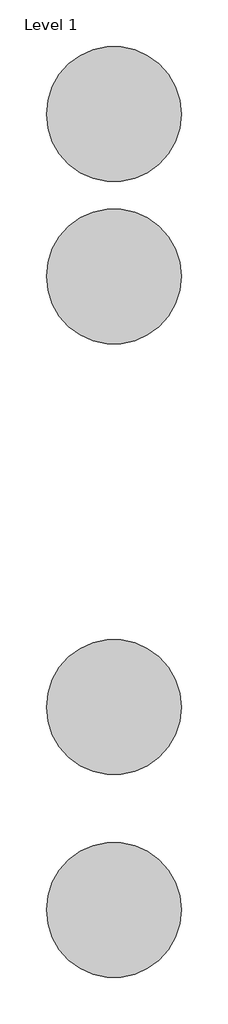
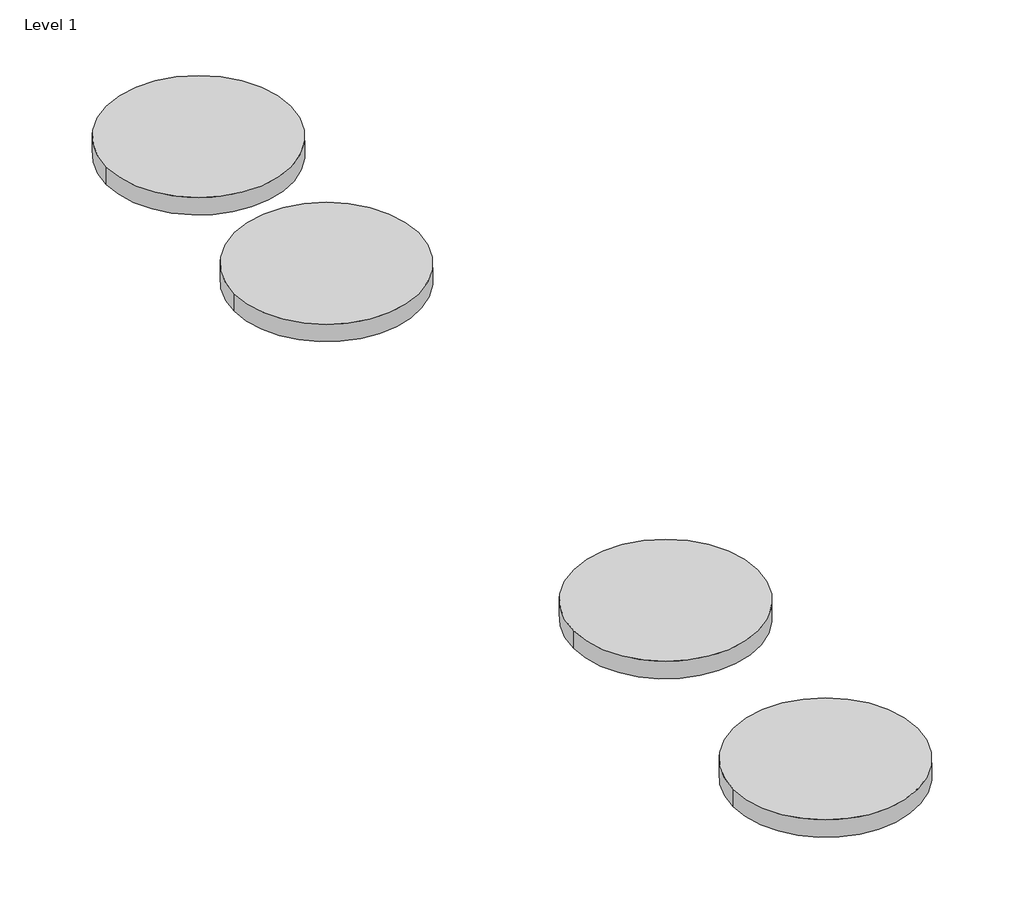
# One storey, incomplete: 4 proxies.
"""IFC4 building model written with IfcOpenShell, lengths in millimetres."""

import ifcopenshell
import ifcopenshell.guid

model = None  # the IFC model being written
_history = None  # IfcOwnerHistory: only IFC2X3 demands one
_inside = {}  # id of a spatial element -> (the spatial element, [elements in it])
_under = {}  # id of a project, library or spatial element -> (it, [spatial elements below it])
_declared = {}  # id of a project -> (the project, [libraries it declares])
_typed = {}  # id of a type object -> (the type object, [elements of that type])
_made_of = {}  # id of a material, layer set ... -> (it, [elements and type objects made of it])


def new_model(schema):
    """Start an empty IFC model of exactly this schema.

    Asked for "IFC4X3", IfcOpenShell would pick the latest addendum, in which some entities
    have other attributes; the version numbers below select the first issue.
    IFC2X3 requires an IfcOwnerHistory on every rooted entity: one is made here for all.
    """
    global model, _history
    if schema == "IFC4X3":
        model = ifcopenshell.file(schema_version=(4, 3, 0, 0))
    else:
        model = ifcopenshell.file(schema=schema)
    _inside.clear()
    _under.clear()
    _declared.clear()
    _typed.clear()
    _made_of.clear()
    _history = None
    if model.schema == "IFC2X3":
        org = make("IfcOrganization", Name="unknown")
        user = make(
            "IfcPersonAndOrganization",
            ThePerson=make("IfcPerson", FamilyName="unknown"),
            TheOrganization=org,
        )
        app = make(
            "IfcApplication",
            ApplicationDeveloper=org,
            Version="unknown",
            ApplicationFullName="unknown",
            ApplicationIdentifier="unknown",
        )
        _history = make(
            "IfcOwnerHistory",
            OwningUser=user,
            OwningApplication=app,
            ChangeAction="ADDED",
            CreationDate=0,
        )
    return model


def make(cls, **values):
    """One entity of the class cls with the attributes given. An attribute that is None is left unset."""
    return model.create_entity(
        cls, **{name: value for name, value in values.items() if value is not None}
    )


def rooted(cls, **values):
    """An entity with a GlobalId (a new one), such as an element, a storey or a relation."""
    return make(cls, GlobalId=ifcopenshell.guid.new(), OwnerHistory=_history, **values)


def si_unit(unit_type, name, prefix=None):
    """IfcSIUnit, for example si_unit("LENGTHUNIT", "METRE", prefix="MILLI")."""
    return make("IfcSIUnit", UnitType=unit_type, Prefix=prefix, Name=name)


def assignment(units):
    """IfcUnitAssignment: the units of a project."""
    return None if units is None else make("IfcUnitAssignment", Units=units)


def point(xyz):
    """IfcCartesianPoint."""
    return None if xyz is None else make("IfcCartesianPoint", Coordinates=xyz)


def direction(xyz):
    """IfcDirection."""
    return None if xyz is None else make("IfcDirection", DirectionRatios=xyz)


def frame(location, z_axis=None, x_axis=None):
    """IfcAxis2Placement3D, a coordinate frame: its origin and axes. An axis left out is left unset."""
    return make(
        "IfcAxis2Placement3D",
        Location=point(location),
        Axis=direction(z_axis),
        RefDirection=direction(x_axis),
    )


def frame_2d(location, x_axis=None):
    """IfcAxis2Placement2D, a coordinate frame in the plane: its origin and x axis."""
    return make(
        "IfcAxis2Placement2D", Location=point(location), RefDirection=direction(x_axis)
    )


def origin():
    """The frame at (0, 0, 0) with its axes left unset."""
    return frame((0.0, 0.0, 0.0))


def origin_with_axes():
    """The frame at (0, 0, 0) with the z axis (0, 0, 1) and the x axis (1, 0, 0) written out."""
    return frame((0.0, 0.0, 0.0), z_axis=(0.0, 0.0, 1.0), x_axis=(1.0, 0.0, 0.0))


def origin_2d():
    """The frame at (0, 0) in the plane with its x axis left unset."""
    return frame_2d((0.0, 0.0))


def place(relative_to, where):
    """IfcLocalPlacement: puts the frame where relative to a parent placement (None: the world)."""
    return make(
        "IfcLocalPlacement", PlacementRelTo=relative_to, RelativePlacement=where
    )


def context(
    kind, dimensions, precision=None, world=None, true_north=None, identifier=None
):
    """IfcGeometricRepresentationContext, for example the 3D "Model" context."""
    return make(
        "IfcGeometricRepresentationContext",
        ContextIdentifier=identifier,
        ContextType=kind,
        CoordinateSpaceDimension=dimensions,
        Precision=precision,
        WorldCoordinateSystem=world,
        TrueNorth=true_north,
    )


def project(units=None, contexts=None):
    """IfcProject with its units and contexts."""
    return rooted(
        "IfcProject",
        Name="project",
        RepresentationContexts=contexts,
        UnitsInContext=assignment(units),
    )


def spatial(cls, under=None, at=None, **own):
    """A site, building, storey or space (cls), placed at a placement, below another one or the project."""
    s = rooted(cls, ObjectPlacement=at, **own)
    if under is not None:
        _under.setdefault(under.id(), (under, []))[1].append(s)
    return s


def circle_curve(where, radius):
    """IfcCircle in the frame where."""
    return make("IfcCircle", Position=where, Radius=radius)


def trimmed(basis, trim1, trim2, sense, master):
    """IfcTrimmedCurve: the piece of a basis curve between two trims."""
    return make(
        "IfcTrimmedCurve",
        BasisCurve=basis,
        Trim1=trim1,
        Trim2=trim2,
        SenseAgreement=sense,
        MasterRepresentation=master,
    )


def segment(curve, same_sense, transition):
    """IfcCompositeCurveSegment."""
    return make(
        "IfcCompositeCurveSegment",
        Transition=transition,
        SameSense=same_sense,
        ParentCurve=curve,
    )


def composite_curve(segments, self_intersect=None):
    """IfcCompositeCurve: segments joined end to end."""
    return make("IfcCompositeCurve", Segments=segments, SelfIntersect=self_intersect)


def outline(outer, holes=None, kind="AREA"):
    """IfcArbitraryClosedProfileDef: a profile drawn as a closed curve; with holes, ...WithVoids."""
    if holes is None:
        return make("IfcArbitraryClosedProfileDef", ProfileType=kind, OuterCurve=outer)
    return make(
        "IfcArbitraryProfileDefWithVoids",
        ProfileType=kind,
        OuterCurve=outer,
        InnerCurves=holes,
    )


def extrude(swept, where, along, depth):
    """IfcExtrudedAreaSolid: the profile swept, set in the frame where, extruded along a direction by depth."""
    return make(
        "IfcExtrudedAreaSolid",
        SweptArea=swept,
        Position=where,
        ExtrudedDirection=direction(along),
        Depth=depth,
    )


def shape(context_of_items, identifier, shape_type, items):
    """IfcShapeRepresentation: the items that make up one representation, for example the "Body"."""
    return make(
        "IfcShapeRepresentation",
        ContextOfItems=context_of_items,
        RepresentationIdentifier=identifier,
        RepresentationType=shape_type,
        Items=items,
    )


def source(mapping_origin, context_of_items, identifier, shape_type, items):
    """IfcRepresentationMap: a shape defined once, which mapped items show again and again."""
    return make(
        "IfcRepresentationMap",
        MappingOrigin=mapping_origin,
        MappedRepresentation=shape(context_of_items, identifier, shape_type, items),
    )


def transform(
    local_origin,
    x_axis=None,
    y_axis=None,
    z_axis=None,
    scale=None,
    scale2=None,
    scale3=None,
    uniform=True,
):
    """IfcCartesianTransformationOperator3D, or its non-uniform kind. x_axis, y_axis, z_axis: its Axis1, 2, 3."""
    if uniform:
        return make(
            "IfcCartesianTransformationOperator3D",
            Axis1=direction(x_axis),
            Axis2=direction(y_axis),
            LocalOrigin=point(local_origin),
            Scale=scale,
            Axis3=direction(z_axis),
        )
    return make(
        "IfcCartesianTransformationOperator3DnonUniform",
        Axis1=direction(x_axis),
        Axis2=direction(y_axis),
        LocalOrigin=point(local_origin),
        Scale=scale,
        Axis3=direction(z_axis),
        Scale2=scale2,
        Scale3=scale3,
    )


def mapped(mapping_source, mapping_target):
    """IfcMappedItem: shows the shape of a source again, moved by a transform."""
    return make(
        "IfcMappedItem", MappingSource=mapping_source, MappingTarget=mapping_target
    )


def made_of(thing, what):
    """Note that an element or type object is made of a material, layer set ...; save() writes the relation."""
    if what is not None:
        _made_of.setdefault(what.id(), (what, []))[1].append(thing)
    return thing


def element(
    cls,
    number,
    at=None,
    inside=None,
    cuts=None,
    type_object=None,
    material=None,
    context=None,
    identifier="Body",
    shape_type=None,
    held_by="IfcProductDefinitionShape",
    body=None,
    shapes=None,
    **own,
):
    """One element of the class cls, such as IfcWall. Its Tag is "e" and its number.

    at: its placement. inside: the storey or other place that contains it. cuts: it is an
    opening in that element (IfcRelVoidsElement). A single representation is given by context,
    identifier, shape_type and body (its items); several are given by shapes. held_by: the class
    of the entity that holds the representations. save() writes the other relations.
    """
    e = rooted(cls, Tag="e%d" % number, ObjectPlacement=at, **own)
    if body is not None:
        shapes = [shape(context, identifier, shape_type, body)]
    if shapes is not None:
        e.Representation = make(held_by, Representations=shapes)
    if inside is not None:
        _inside.setdefault(inside.id(), (inside, []))[1].append(e)
    if cuts is not None:
        rooted(
            "IfcRelVoidsElement", RelatingBuildingElement=cuts, RelatedOpeningElement=e
        )
    if type_object is not None:
        _typed.setdefault(type_object.id(), (type_object, []))[1].append(e)
    return made_of(e, material)


def aggregate(whole, parts):
    """IfcRelAggregates: a whole, such as a stair, and the parts it consists of."""
    return rooted("IfcRelAggregates", RelatingObject=whole, RelatedObjects=parts)


def save(model, path):
    """Write the relations noted so far, then the file.

    IfcRelAggregates (storeys below a building ...), IfcRelContainedInSpatialStructure (elements
    in a storey), IfcRelDefinesByType, IfcRelAssociatesMaterial and IfcRelDeclares: one each for
    every whole, place, type object, material and project.
    """
    for whole, parts in _under.values():
        aggregate(whole, parts)
    for where, things in _inside.values():
        rooted(
            "IfcRelContainedInSpatialStructure",
            RelatedElements=things,
            RelatingStructure=where,
        )
    for kind, things in _typed.values():
        rooted("IfcRelDefinesByType", RelatedObjects=things, RelatingType=kind)
    for what, things in _made_of.values():
        rooted("IfcRelAssociatesMaterial", RelatedObjects=things, RelatingMaterial=what)
    for by, libraries in _declared.values():
        rooted("IfcRelDeclares", RelatingContext=by, RelatedDefinitions=libraries)
    model.write(path)


def materialmodel_materialmodel_ac00f72a(model_context):
    return source(origin(), model_context, "Body", "SweptSolid", [
        extrude(outline(composite_curve([segment(trimmed(circle_curve(origin_2d(), 100.0), [point((-100.0, 0.0))], [point((100.0, 0.0))], False, "CARTESIAN"), True, "CONTINUOUS"), segment(trimmed(circle_curve(origin_2d(), 100.0), [point((100.0, 0.0))], [point((-100.0, 0.0))], False, "CARTESIAN"), True, "CONTINUOUS")], self_intersect=False)), origin_with_axes(), (0.0, 0.0, 1.0), 20.0),
    ])


model = new_model("IFC4")

# Units and contexts
model_context = context("Model", 3, world=origin())
ifc_project = project(units=[si_unit("LENGTHUNIT", "METRE", prefix="MILLI")], contexts=[model_context])

# Site, building, storey
site = spatial("IfcSite", under=ifc_project)
building = spatial("IfcBuilding", under=site)
storey = spatial("IfcBuildingStorey", under=building, Name="Level 1", Elevation=0.0)

# Proxies
placement = place(None, origin())
materialmodel_materialmodel_shape = materialmodel_materialmodel_ac00f72a(model_context)
element("IfcBuildingElementProxy", 1, Name="MaterialModel : MaterialModel", ObjectType="MaterialModel : MaterialModel", at=placement, inside=storey, context=model_context, shape_type="MappedRepresentation", body=[
    mapped(materialmodel_materialmodel_shape, transform((-11701.407422, 5499.9835986, 0.0), x_axis=(1.0, 0.0, 0.0), y_axis=(0.0, 1.0, 0.0), z_axis=(0.0, 0.0, 1.0))),
])
element("IfcBuildingElementProxy", 2, Name="MaterialModel : MaterialModel", ObjectType="MaterialModel : MaterialModel", at=placement, inside=storey, context=model_context, shape_type="MappedRepresentation", body=[
    mapped(materialmodel_materialmodel_shape, transform((-11701.407422, 6677.5703847, 0.0), x_axis=(1.0, 0.0, 0.0), y_axis=(0.0, 1.0, 0.0), z_axis=(0.0, 0.0, 1.0))),
])
element("IfcBuildingElementProxy", 3, Name="MaterialModel : MaterialModel", ObjectType="MaterialModel : MaterialModel", at=placement, inside=storey, context=model_context, shape_type="MappedRepresentation", body=[
    mapped(materialmodel_materialmodel_shape, transform((-11701.407422, 6437.5703847, 0.0), x_axis=(1.0, 0.0, 0.0), y_axis=(0.0, 1.0, 0.0), z_axis=(0.0, 0.0, 1.0))),
])
element("IfcBuildingElementProxy", 4, Name="MaterialModel : MaterialModel", ObjectType="MaterialModel : MaterialModel", at=placement, inside=storey, context=model_context, shape_type="MappedRepresentation", body=[
    mapped(materialmodel_materialmodel_shape, transform((-11701.407422, 5799.9835986, 0.0), x_axis=(1.0, 0.0, 0.0), y_axis=(0.0, 1.0, 0.0), z_axis=(0.0, 0.0, 1.0))),
])

save(model, "model.ifc")
